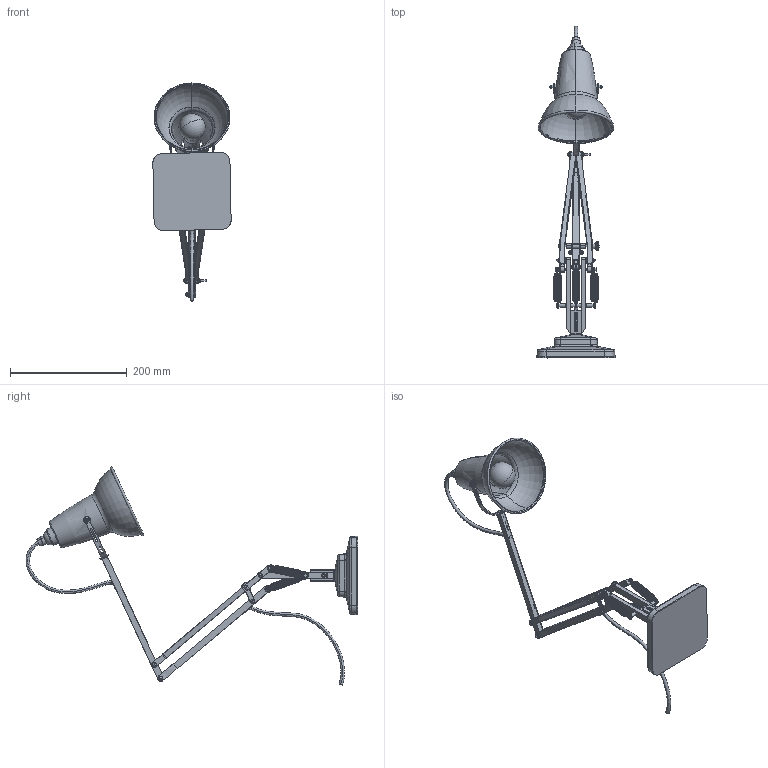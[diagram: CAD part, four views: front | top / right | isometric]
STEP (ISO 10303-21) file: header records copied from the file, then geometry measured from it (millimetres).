
FILE_DESCRIPTION (( 'STEP AP214' ), '1' );
FILE_NAME ('Original_1227_Mini_Desk_Light_STEP_01.STEP', '2016-12-07T10:35:29', ( '' ), ( '' ), 'SwSTEP 2.0', 'SolidWorks 2015', '' );
FILE_SCHEMA (( 'AUTOMOTIVE_DESIGN' ));
Length unit declared in the file: millimetre
Products named in the file (1): Original_1227_Mini_Desk_Light_STEP_01
Bounding box: 133.98 x 568.36 x 373.55 mm (x, y, z)
Volume: 612244.1 mm3; surface area: 261900.3 mm2
Topology: 1 solids, 1 shells, 2549 faces, 6972 edges, 4398 vertices
Faces by surface type: cylinder 1160, plane 665, bspline 411, torus 186, sphere 80, cone 47
Entity records: 191880 total; most frequent: CARTESIAN_POINT 114274, ORIENTED_EDGE 13822, DIRECTION 11442, EDGE_CURVE 6911, VERTEX_POINT 4391, AXIS2_PLACEMENT_3D 4374, EDGE_LOOP 2710, VECTOR 2694
